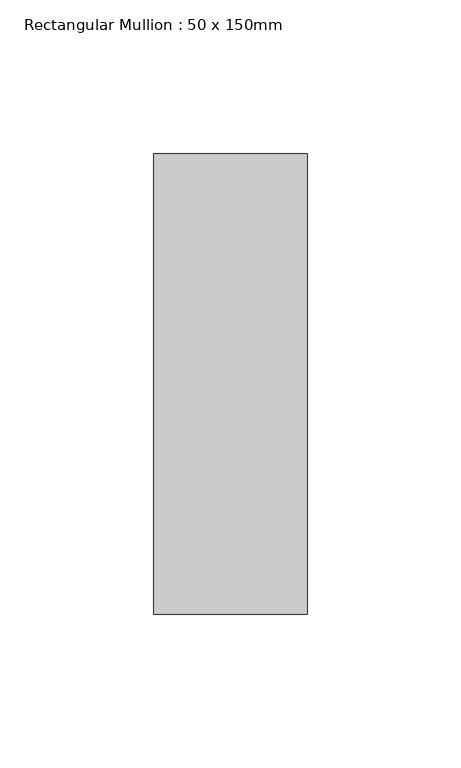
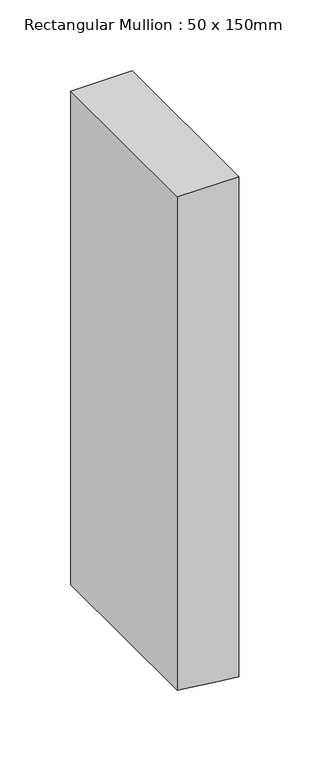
"""IFC4 building model written with IfcOpenShell, lengths in millimetres: member geometry, Rectangular Mullion : 50 x 150mm."""

from ifc_helpers import new_model, si_unit, frame, origin, place, context, project, spatial, polyline, outline, extrude, source, transform, mapped, element, save


def rectangular_mullion_50_x_150mm_c89d8600(model_context):
    return source(origin(), model_context, "Body", "SweptSolid", [
        extrude(outline(polyline([(0.0, 25.0), (0.0, -25.0), (-424.7306859, -25.0), (-428.2108451, 5.6423937), (-430.4093533, 25.0), (0.0, 25.0)])), frame((0.0, -75.0, 0.0), z_axis=(0.0, 1.0, 0.0), x_axis=(0.0, 0.0, 1.0)), (0.0, 0.0, 1.0), 150.0),
    ])


if __name__ == "__main__":
    model = new_model("IFC4")
    model_context = context("Model", 3, world=origin())
    ifc_project = project(units=[si_unit("LENGTHUNIT", "METRE", prefix="MILLI")], contexts=[model_context])
    site = spatial("IfcSite", under=ifc_project)
    building = spatial("IfcBuilding", under=site)
    placement = place(None, origin())
    rectangular_mullion_50_x_150mm_shape = rectangular_mullion_50_x_150mm_c89d8600(model_context)
    element("IfcMember", 1, ObjectType="Rectangular Mullion : 50 x 150mm", at=placement, inside=building, context=model_context, shape_type="MappedRepresentation", body=[
        mapped(rectangular_mullion_50_x_150mm_shape, transform((0.0, 0.0, 0.0), x_axis=(1.0, 0.0, 0.0), y_axis=(0.0, 1.0, 0.0), z_axis=(0.0, 0.0, 1.0))),
    ])
    save(model, "model.ifc")
